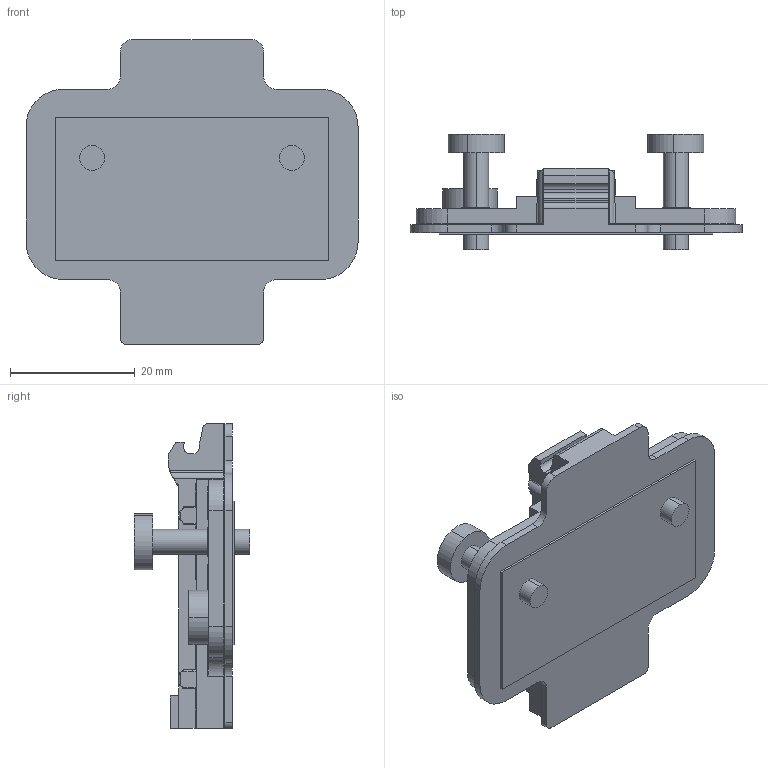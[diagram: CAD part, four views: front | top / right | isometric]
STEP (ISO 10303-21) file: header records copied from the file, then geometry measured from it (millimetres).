
FILE_DESCRIPTION (( 'STEP AP203' ), '1' );
FILE_NAME ('81T2PTQA.STEP', '2024-07-26T08:51:22', ( '微软用户' ), ( '微软中国' ), 'SwSTEP 2.0', 'SolidWorks 2021', '' );
FILE_SCHEMA (( 'CONFIG_CONTROL_DESIGN' ));
Length unit declared in the file: millimetre
Products named in the file (1): 81T2PTQA
Bounding box: 53.2 x 18.57 x 48.85 mm (x, y, z)
Volume: 11424.5 mm3; surface area: 6326.8 mm2
Topology: 1 solids, 1 shells, 293 faces, 791 edges, 503 vertices
Faces by surface type: cylinder 126, plane 111, torus 48, bspline 4, sphere 4
Entity records: 9712 total; most frequent: CARTESIAN_POINT 2291, ORIENTED_EDGE 1566, DIRECTION 1551, EDGE_CURVE 783, AXIS2_PLACEMENT_3D 577, VERTEX_POINT 503, LINE 397, VECTOR 397
